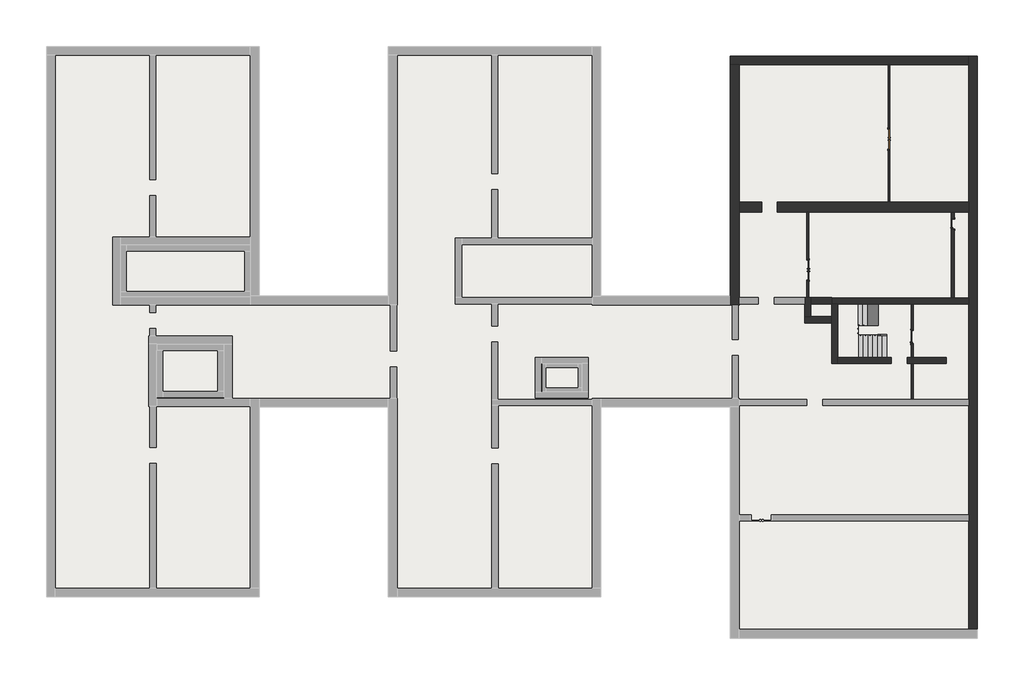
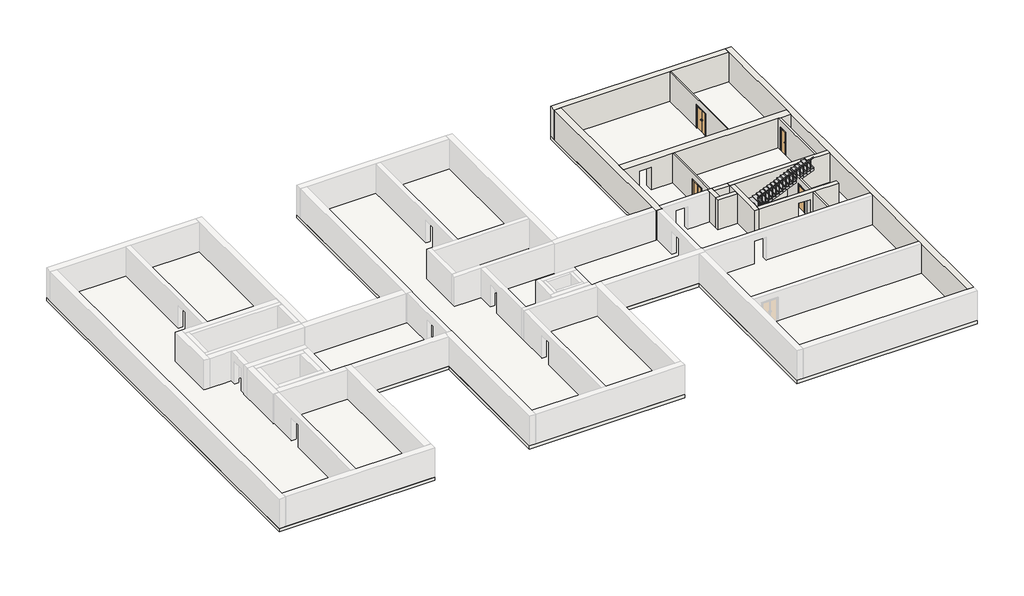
# One storey, part 2 of 2: 15 walls, 4 doors, 2 slabs, 2 stair flights, 1 railing.
"""IFC4 building model written with IfcOpenShell, lengths in millimetres."""

from ifc_helpers import new_model, si_unit, frame, origin, place, context, project, spatial, polyline, outline, extrude, faceted_brep, transform, mapped, element, save
from components import door_6cda5d05, door_2465b851, door_276684d3, door_2809dd26, railing_34ed4170

model = new_model("IFC4")

# Units and contexts
model_context = context("Model", 3, world=origin())
ifc_project = project(units=[si_unit("LENGTHUNIT", "METRE", prefix="MILLI")], contexts=[model_context])

# Site, building, storey
site = spatial("IfcSite", under=ifc_project)
building = spatial("IfcBuilding", under=site)
storey = spatial("IfcBuildingStorey", under=building, Name="Подвальный этаж", Elevation=-3000.0)

# Doors
placement = place(None, origin())
door_shape = door_6cda5d05(model_context)
element("IfcDoor", 1, ObjectType="Наружная дверь 2-Навесная - Один проем наружу с порогом - 31173-2003 : ДСН ДКН М2 2100-1300 ГОСТ 31173-2003", at=placement, inside=storey, context=model_context, shape_type="MappedRepresentation", body=[
    mapped(door_shape, transform((9840.1759979, 8384.6370105, -3000.0), x_axis=(0.0, 1.0, 0.0), y_axis=(-1.0, 0.0, 0.0), z_axis=(0.0, 0.0, 1.0))),
])
door_2_shape = door_2465b851(model_context)
element("IfcDoor", 2, ObjectType="Наружная дверь 2-Навесная - Один проем наружу с порогом - 31173-2003 : ДСН ДКН М2 2100-1300 ГОСТ 31173-2003", at=placement, inside=storey, context=model_context, shape_type="MappedRepresentation", body=[
    mapped(door_2_shape, transform((14967.6759979, 16684.6370105, -3000.0), x_axis=(0.0, 1.0, 0.0), y_axis=(-1.0, 0.0, 0.0), z_axis=(0.0, 0.0, 1.0))),
])
door_3_shape = door_276684d3(model_context)
element("IfcDoor", 3, ObjectType="Внутренняя дверь 1-Навесная - 6629-88 : ДГ 21-9  ГОСТ 6629-88", at=placement, inside=storey, context=model_context, shape_type="MappedRepresentation", body=[
    mapped(door_3_shape, transform((16435.1759979, 4154.6370105, -3000.0), x_axis=(0.0, 1.0, 0.0), y_axis=(-1.0, 0.0, 0.0), z_axis=(0.0, 0.0, 1.0))),
])
door_4_shape = door_2809dd26(model_context)
element("IfcDoor", 4, ObjectType="Внутренняя дверь 1-Навесная - 6629-88 : ДГ 21-7Л  ГОСТ 6629-88", at=placement, inside=storey, context=model_context, shape_type="MappedRepresentation", body=[
    mapped(door_4_shape, transform((19017.6759979, 11304.6370105, -3000.0), x_axis=(0.0, -1.0, 0.0), y_axis=(1.0, 0.0, 0.0), z_axis=(0.0, 0.0, 1.0))),
])

# Railing
railing_shape = railing_34ed4170(model_context)
element("IfcRailing", 5, ObjectType="ADSK_Стандартное_h 900 Поручень квадратный без направляющих", at=placement, inside=storey, context=model_context, shape_type="MappedRepresentation", body=[
    mapped(railing_shape, transform((0.0, 0.0, 0.0), x_axis=(1.0, 0.0, 0.0), y_axis=(0.0, 1.0, 0.0), z_axis=(0.0, 0.0, 1.0))),
])

# Slabs
element("IfcSlab", 6, ObjectType="ADSK_Перекрытие_Плита с полом_Бетон220 лаги40 доска40_300", at=placement, inside=storey, context=model_context, shape_type="SweptSolid", body=[
    extrude(outline(polyline([(-38347.3240021, -12320.3629895), (-38347.3240021, 22549.6370105), (-24897.3240021, 22549.6370105), (-24897.3240021, 6739.6370105), (-16707.3240021, 6739.6370105), (-16707.3240021, 22549.6370105), (-3257.3240021, 22549.6370105), (-3257.3240021, 6739.6370105), (4932.6759979, 6739.6370105), (4932.6759979, 21939.6370105), (20572.6759979, 21939.6370105), (20572.6759979, -14930.3629895), (4932.6759979, -14930.3629895), (4932.6759979, -290.3629895), (-3257.3240021, -290.3629895), (-3257.3240021, -12320.3629895), (-16707.3240021, -12320.3629895), (-16707.3240021, -290.3629895), (-24897.3240021, -290.3629895), (-24897.3240021, -12320.3629895), (-38347.3240021, -12320.3629895)])), frame((0.0, 0.0, -3300.0), z_axis=(0.0, 0.0, 1.0), x_axis=(1.0, 0.0, 0.0)), (0.0, 0.0, 1.0), 300.0),
])
element("IfcSlab", 7, ObjectType="ADSK_Монолитная_С отделкой_200х80", at=placement, inside=storey, context=model_context, shape_type="SolidModel", body=[
    faceted_brep([(13012.2759979, 2844.6370105, -2205.0), (13012.2759979, 4285.238226, -2205.0), (13027.2759979, 4285.238226, -2205.0), (13027.2759979, 4884.6370105, -2205.0), (13042.2759979, 4884.6370105, -2205.0), (13042.2759979, 6244.6370105, -2205.0), (13027.2759979, 6244.6370105, -2205.0), (12832.2759979, 6244.6370105, -2205.0), (11737.6759979, 6244.6370105, -2205.0), (11737.6759979, 2844.6370105, -2205.0), (12922.2759979, 2844.6370105, -2205.0), (13012.2759979, 2844.6370105, -2280.0), (13012.2759979, 2844.6370105, -2442.5), (13012.2759979, 4285.238226, -2442.5), (13012.2759979, 4285.238226, -2405.0), (13012.2759979, 4285.238226, -2280.0), (13027.2759979, 4285.238226, -2405.0), (13027.2759979, 4884.6370105, -2405.0), (13027.2759979, 4884.6370105, -2323.75), (13042.2759979, 4884.6370105, -2317.5), (13042.2759979, 6244.6370105, -2317.5), (13027.2759979, 6244.6370105, -2323.75), (12832.2759979, 6244.6370105, -2405.0), (11737.6759979, 6244.6370105, -2405.0), (11737.6759979, 2844.6370105, -2405.0), (12922.2759979, 2844.6370105, -2405.0), (12832.2759979, 4884.6370105, -2405.0), (12922.2759979, 4285.238226, -2405.0)], [[[0, 1, 2, 3, 4, 5, 6, 7, 8, 9, 10]], [[1, 0, 11, 12, 13, 14, 15]], [[2, 1, 15, 14, 16]], [[3, 2, 16, 17, 18]], [[4, 3, 18, 19]], [[5, 4, 19, 20]], [[6, 5, 20, 21]], [[6, 21, 22, 23, 8, 7]], [[9, 8, 23, 24]], [[12, 11, 0, 10, 9, 24, 25]], [[26, 17, 16, 14, 27, 25, 24, 23, 22]], [[17, 26, 18]], [[25, 27, 13, 12]], [[27, 14, 13]], [[26, 22, 21, 20, 19, 18]]]),
    extrude(outline(polyline([(13027.2759979, 2844.6370105), (11737.6759979, 2844.6370105), (11737.6759979, 6244.6370105), (13027.2759979, 6244.6370105), (13027.2759979, 4884.6370105), (13027.2759979, 4285.238226), (13027.2759979, 2844.6370105)])), frame((0.0, 0.0, -2205.0), z_axis=(0.0, 0.0, 1.0), x_axis=(1.0, 0.0, 0.0)), (0.0, 0.0, 1.0), 80.0),
])

# Stair flights
element("IfcStairFlight", 8, ObjectType="ADSK_Монолитный_С отделкой_150х30х15", at=placement, inside=storey, context=model_context, shape_type="SolidModel", body=[
    faceted_brep([(14512.2759979, 2844.6370105, -2905.0), (14812.2759979, 2844.6370105, -2905.0), (14812.2759979, 4285.238226, -2905.0), (14512.2759979, 4285.238226, -2905.0), (14512.2759979, 2844.6370105, -3000.0), (14812.2759979, 2844.6370105, -3000.0), (14812.2759979, 4285.238226, -3000.0), (14512.2759979, 4285.238226, -3000.0), (14212.2759979, 2844.6370105, -2780.0), (14512.2759979, 2844.6370105, -2780.0), (14512.2759979, 4285.238226, -2780.0), (14212.2759979, 4285.238226, -2780.0), (14212.2759979, 2844.6370105, -2942.5), (14350.2759979, 2844.6370105, -3000.0), (14350.2759979, 4285.238226, -3000.0), (14212.2759979, 4285.238226, -2942.5), (13912.2759979, 2844.6370105, -2655.0), (14212.2759979, 2844.6370105, -2655.0), (14212.2759979, 4285.238226, -2655.0), (13912.2759979, 4285.238226, -2655.0), (13912.2759979, 2844.6370105, -2817.5), (13912.2759979, 4285.238226, -2817.5), (13612.2759979, 2844.6370105, -2530.0), (13912.2759979, 2844.6370105, -2530.0), (13912.2759979, 4285.238226, -2530.0), (13612.2759979, 4285.238226, -2530.0), (13612.2759979, 2844.6370105, -2692.5), (13612.2759979, 4285.238226, -2692.5), (13312.2759979, 2844.6370105, -2405.0), (13612.2759979, 2844.6370105, -2405.0), (13612.2759979, 4285.238226, -2405.0), (13312.2759979, 4285.238226, -2405.0), (13312.2759979, 2844.6370105, -2567.5), (13312.2759979, 4285.238226, -2567.5), (13312.2759979, 2844.6370105, -2280.0), (13312.2759979, 4285.238226, -2280.0), (13027.2759979, 4285.238226, -2280.0), (13012.2759979, 4285.238226, -2280.0), (13012.2759979, 2844.6370105, -2280.0), (13027.2759979, 2844.6370105, -2280.0), (13012.2759979, 2844.6370105, -2442.5), (13027.2759979, 2844.6370105, -2448.75), (13012.2759979, 4285.238226, -2442.5), (13012.2759979, 4285.238226, -2405.0)], [[[0, 1, 2, 3]], [[1, 0, 4, 5]], [[2, 1, 5, 6]], [[3, 2, 6, 7]], [[8, 9, 10, 11]], [[4, 0, 9, 8, 12, 13]], [[0, 3, 10, 9]], [[3, 7, 14, 15, 11, 10]], [[16, 17, 18, 19]], [[17, 16, 20, 12, 8]], [[8, 11, 18, 17]], [[19, 18, 11, 15, 21]], [[22, 23, 24, 25]], [[23, 22, 26, 20, 16]], [[16, 19, 24, 23]], [[25, 24, 19, 21, 27]], [[28, 29, 30, 31]], [[29, 28, 32, 26, 22]], [[22, 25, 30, 29]], [[31, 30, 25, 27, 33]], [[34, 35, 36, 37, 38, 39]], [[28, 34, 39, 38, 40, 41, 32]], [[28, 31, 35, 34]], [[35, 31, 33, 42, 43, 37, 36]], [[38, 37, 43, 42, 40]], [[5, 4, 13, 14, 7, 6]], [[14, 13, 12, 20, 26, 32, 41, 40, 42, 33, 27, 21, 15]]]),
    extrude(outline(polyline([(14812.2759979, 4285.238226), (14827.2759979, 4285.238226), (14827.2759979, 2844.6370105), (14812.2759979, 2844.6370105), (14812.2759979, 4285.238226)])), frame((0.0, 0.0, -3000.0), z_axis=(0.0, 0.0, 1.0), x_axis=(1.0, 0.0, 0.0)), (0.0, 0.0, 1.0), 95.0),
    extrude(outline(polyline([(14527.2759979, 2844.6370105), (14527.2759979, 4285.238226), (14827.2759979, 4285.238226), (14827.2759979, 2844.6370105), (14527.2759979, 2844.6370105)])), frame((0.0, 0.0, -2905.0), z_axis=(0.0, 0.0, 1.0), x_axis=(1.0, 0.0, 0.0)), (0.0, 0.0, 1.0), 30.0),
    extrude(outline(polyline([(14512.2759979, 4285.238226), (14527.2759979, 4285.238226), (14527.2759979, 2844.6370105), (14512.2759979, 2844.6370105), (14512.2759979, 4285.238226)])), frame((0.0, 0.0, -2905.0), z_axis=(0.0, 0.0, 1.0), x_axis=(1.0, 0.0, 0.0)), (0.0, 0.0, 1.0), 125.0),
    extrude(outline(polyline([(14227.2759979, 2844.6370105), (14227.2759979, 4285.238226), (14527.2759979, 4285.238226), (14527.2759979, 2844.6370105), (14227.2759979, 2844.6370105)])), frame((0.0, 0.0, -2780.0), z_axis=(0.0, 0.0, 1.0), x_axis=(1.0, 0.0, 0.0)), (0.0, 0.0, 1.0), 30.0),
    extrude(outline(polyline([(14212.2759979, 4285.238226), (14227.2759979, 4285.238226), (14227.2759979, 2844.6370105), (14212.2759979, 2844.6370105), (14212.2759979, 4285.238226)])), frame((0.0, 0.0, -2780.0), z_axis=(0.0, 0.0, 1.0), x_axis=(1.0, 0.0, 0.0)), (0.0, 0.0, 1.0), 125.0),
    extrude(outline(polyline([(13927.2759979, 2844.6370105), (13927.2759979, 4285.238226), (14227.2759979, 4285.238226), (14227.2759979, 2844.6370105), (13927.2759979, 2844.6370105)])), frame((0.0, 0.0, -2655.0), z_axis=(0.0, 0.0, 1.0), x_axis=(1.0, 0.0, 0.0)), (0.0, 0.0, 1.0), 30.0),
    extrude(outline(polyline([(13912.2759979, 4285.238226), (13927.2759979, 4285.238226), (13927.2759979, 2844.6370105), (13912.2759979, 2844.6370105), (13912.2759979, 4285.238226)])), frame((0.0, 0.0, -2655.0), z_axis=(0.0, 0.0, 1.0), x_axis=(1.0, 0.0, 0.0)), (0.0, 0.0, 1.0), 125.0),
    extrude(outline(polyline([(13627.2759979, 2844.6370105), (13627.2759979, 4285.238226), (13927.2759979, 4285.238226), (13927.2759979, 2844.6370105), (13627.2759979, 2844.6370105)])), frame((0.0, 0.0, -2530.0), z_axis=(0.0, 0.0, 1.0), x_axis=(1.0, 0.0, 0.0)), (0.0, 0.0, 1.0), 30.0),
    extrude(outline(polyline([(13612.2759979, 4285.238226), (13627.2759979, 4285.238226), (13627.2759979, 2844.6370105), (13612.2759979, 2844.6370105), (13612.2759979, 4285.238226)])), frame((0.0, 0.0, -2530.0), z_axis=(0.0, 0.0, 1.0), x_axis=(1.0, 0.0, 0.0)), (0.0, 0.0, 1.0), 125.0),
    extrude(outline(polyline([(13327.2759979, 2844.6370105), (13327.2759979, 4285.238226), (13627.2759979, 4285.238226), (13627.2759979, 2844.6370105), (13327.2759979, 2844.6370105)])), frame((0.0, 0.0, -2405.0), z_axis=(0.0, 0.0, 1.0), x_axis=(1.0, 0.0, 0.0)), (0.0, 0.0, 1.0), 30.0),
    extrude(outline(polyline([(13312.2759979, 4285.238226), (13327.2759979, 4285.238226), (13327.2759979, 2844.6370105), (13312.2759979, 2844.6370105), (13312.2759979, 4285.238226)])), frame((0.0, 0.0, -2405.0), z_axis=(0.0, 0.0, 1.0), x_axis=(1.0, 0.0, 0.0)), (0.0, 0.0, 1.0), 125.0),
    extrude(outline(polyline([(13027.2759979, 2844.6370105), (13027.2759979, 4285.238226), (13327.2759979, 4285.238226), (13327.2759979, 2844.6370105), (13027.2759979, 2844.6370105)])), frame((0.0, 0.0, -2280.0), z_axis=(0.0, 0.0, 1.0), x_axis=(1.0, 0.0, 0.0)), (0.0, 0.0, 1.0), 30.0),
    extrude(outline(polyline([(13012.2759979, 4285.238226), (13027.2759979, 4285.238226), (13027.2759979, 2844.6370105), (13012.2759979, 2844.6370105), (13012.2759979, 4285.238226)])), frame((0.0, 0.0, -2280.0), z_axis=(0.0, 0.0, 1.0), x_axis=(1.0, 0.0, 0.0)), (0.0, 0.0, 1.0), 75.0),
])
element("IfcStairFlight", 9, ObjectType="ADSK_Монолитный_С отделкой_150х30х15", at=placement, inside=storey, context=model_context, shape_type="SolidModel", body=[
    faceted_brep([(13342.2759979, 6244.6370105, -2030.0), (13042.2759979, 6244.6370105, -2030.0), (13042.2759979, 4884.6370105, -2030.0), (13342.2759979, 4884.6370105, -2030.0), (13342.2759979, 6244.6370105, -2192.5), (13042.2759979, 6244.6370105, -2317.5), (13042.2759979, 6244.6370105, -2205.0), (13042.2759979, 4884.6370105, -2317.5), (13042.2759979, 4884.6370105, -2205.0), (13342.2759979, 4884.6370105, -2192.5), (13642.2759979, 6244.6370105, -1905.0), (13342.2759979, 6244.6370105, -1905.0), (13342.2759979, 4884.6370105, -1905.0), (13642.2759979, 4884.6370105, -1905.0), (13642.2759979, 6244.6370105, -2067.5), (13642.2759979, 4884.6370105, -2067.5), (13942.2759979, 6244.6370105, -1780.0), (13642.2759979, 6244.6370105, -1780.0), (13642.2759979, 4884.6370105, -1780.0), (13942.2759979, 4884.6370105, -1780.0), (13942.2759979, 6244.6370105, -1942.5), (13942.2759979, 4884.6370105, -1942.5), (14242.2759979, 6244.6370105, -1655.0), (13942.2759979, 6244.6370105, -1655.0), (13942.2759979, 4884.6370105, -1655.0), (14242.2759979, 4884.6370105, -1655.0), (14242.2759979, 6244.6370105, -1817.5), (14242.2759979, 4884.6370105, -1817.5), (14542.2759979, 6244.6370105, -1530.0), (14242.2759979, 6244.6370105, -1530.0), (14242.2759979, 4884.6370105, -1530.0), (14542.2759979, 4884.6370105, -1530.0), (14542.2759979, 6244.6370105, -1692.5), (14542.2759979, 4884.6370105, -1692.5), (14842.2759979, 6244.6370105, -1405.0), (14542.2759979, 6244.6370105, -1405.0), (14542.2759979, 4884.6370105, -1405.0), (14842.2759979, 4884.6370105, -1405.0), (14842.2759979, 6244.6370105, -1567.5), (14842.2759979, 4884.6370105, -1567.5), (15142.2759979, 6244.6370105, -1280.0), (14842.2759979, 6244.6370105, -1280.0), (14842.2759979, 4884.6370105, -1280.0), (15142.2759979, 4884.6370105, -1280.0), (15142.2759979, 6244.6370105, -1442.5), (15142.2759979, 4884.6370105, -1442.5), (15442.2759979, 6244.6370105, -1155.0), (15142.2759979, 6244.6370105, -1155.0), (15142.2759979, 4884.6370105, -1155.0), (15442.2759979, 4884.6370105, -1155.0), (15442.2759979, 6244.6370105, -1317.5), (15442.2759979, 4884.6370105, -1317.5), (15742.2759979, 6244.6370105, -1030.0), (15442.2759979, 6244.6370105, -1030.0), (15442.2759979, 4884.6370105, -1030.0), (15742.2759979, 4884.6370105, -1030.0), (15742.2759979, 6244.6370105, -1192.5), (15742.2759979, 4884.6370105, -1192.5), (16042.2759979, 6244.6370105, -905.0), (15742.2759979, 6244.6370105, -905.0), (15742.2759979, 4884.6370105, -905.0), (16042.2759979, 4884.6370105, -905.0), (16042.2759979, 6244.6370105, -1067.5), (16042.2759979, 4884.6370105, -1067.5), (16342.2759979, 6244.6370105, -780.0), (16042.2759979, 6244.6370105, -780.0), (16042.2759979, 4884.6370105, -780.0), (16342.2759979, 4884.6370105, -780.0), (16342.2759979, 6244.6370105, -942.5), (16342.2759979, 4884.6370105, -942.5), (16642.2759979, 6244.6370105, -817.5), (16942.2759979, 6244.6370105, -692.5), (17242.2759979, 6244.6370105, -567.5), (17542.2759979, 6244.6370105, -442.5), (17842.2759979, 6244.6370105, -317.5), (17842.2759979, 4884.6370105, -317.5), (17542.2759979, 4884.6370105, -442.5), (17242.2759979, 4884.6370105, -567.5), (16942.2759979, 4884.6370105, -692.5), (16642.2759979, 4884.6370105, -817.5), (16642.2759979, 6244.6370105, -655.0), (16342.2759979, 6244.6370105, -655.0), (16342.2759979, 4884.6370105, -655.0), (16642.2759979, 4884.6370105, -655.0), (16942.2759979, 6244.6370105, -530.0), (16642.2759979, 6244.6370105, -530.0), (16642.2759979, 4884.6370105, -530.0), (16942.2759979, 4884.6370105, -530.0), (17242.2759979, 6244.6370105, -405.0), (16942.2759979, 6244.6370105, -405.0), (16942.2759979, 4884.6370105, -405.0), (17242.2759979, 4884.6370105, -405.0), (17542.2759979, 6244.6370105, -280.0), (17242.2759979, 6244.6370105, -280.0), (17242.2759979, 4884.6370105, -280.0), (17542.2759979, 4884.6370105, -280.0), (17842.2759979, 6244.6370105, -155.0), (17542.2759979, 6244.6370105, -155.0), (17542.2759979, 4884.6370105, -155.0), (17842.2759979, 4884.6370105, -155.0)], [[[0, 1, 2, 3]], [[1, 0, 4, 5, 6]], [[2, 1, 6, 5, 7, 8]], [[3, 2, 8, 7, 9]], [[10, 11, 12, 13]], [[11, 10, 14, 4, 0]], [[12, 11, 0, 3]], [[13, 12, 3, 9, 15]], [[16, 17, 18, 19]], [[17, 16, 20, 14, 10]], [[18, 17, 10, 13]], [[19, 18, 13, 15, 21]], [[22, 23, 24, 25]], [[23, 22, 26, 20, 16]], [[24, 23, 16, 19]], [[25, 24, 19, 21, 27]], [[28, 29, 30, 31]], [[29, 28, 32, 26, 22]], [[30, 29, 22, 25]], [[31, 30, 25, 27, 33]], [[34, 35, 36, 37]], [[35, 34, 38, 32, 28]], [[36, 35, 28, 31]], [[37, 36, 31, 33, 39]], [[40, 41, 42, 43]], [[41, 40, 44, 38, 34]], [[42, 41, 34, 37]], [[43, 42, 37, 39, 45]], [[46, 47, 48, 49]], [[47, 46, 50, 44, 40]], [[48, 47, 40, 43]], [[49, 48, 43, 45, 51]], [[52, 53, 54, 55]], [[53, 52, 56, 50, 46]], [[54, 53, 46, 49]], [[55, 54, 49, 51, 57]], [[58, 59, 60, 61]], [[59, 58, 62, 56, 52]], [[60, 59, 52, 55]], [[61, 60, 55, 57, 63]], [[64, 65, 66, 67]], [[65, 64, 68, 62, 58]], [[66, 65, 58, 61]], [[67, 66, 61, 63, 69]], [[5, 4, 14, 20, 26, 32, 38, 44, 50, 56, 62, 68, 70, 71, 72, 73, 74, 75, 76, 77, 78, 79, 69, 63, 57, 51, 45, 39, 33, 27, 21, 15, 9, 7]], [[80, 81, 82, 83]], [[81, 80, 70, 68, 64]], [[82, 81, 64, 67]], [[83, 82, 67, 69, 79]], [[84, 85, 86, 87]], [[85, 84, 71, 70, 80]], [[86, 85, 80, 83]], [[87, 86, 83, 79, 78]], [[88, 89, 90, 91]], [[89, 88, 72, 71, 84]], [[90, 89, 84, 87]], [[91, 90, 87, 78, 77]], [[92, 93, 94, 95]], [[93, 92, 73, 72, 88]], [[94, 93, 88, 91]], [[95, 94, 91, 77, 76]], [[96, 97, 98, 99]], [[97, 96, 74, 73, 92]], [[98, 97, 92, 95]], [[99, 98, 95, 76, 75]], [[96, 99, 75, 74]]]),
    extrude(outline(polyline([(13042.2759979, 4884.6370105), (13027.2759979, 4884.6370105), (13027.2759979, 6244.6370105), (13042.2759979, 6244.6370105), (13042.2759979, 4884.6370105)])), frame((0.0, 0.0, -2205.0), z_axis=(0.0, 0.0, 1.0), x_axis=(1.0, 0.0, 0.0)), (0.0, 0.0, 1.0), 175.0),
    extrude(outline(polyline([(13327.2759979, 6244.6370105), (13327.2759979, 4884.6370105), (13027.2759979, 4884.6370105), (13027.2759979, 6244.6370105), (13327.2759979, 6244.6370105)])), frame((0.0, 0.0, -2030.0), z_axis=(0.0, 0.0, 1.0), x_axis=(1.0, 0.0, 0.0)), (0.0, 0.0, 1.0), 30.0),
    extrude(outline(polyline([(13342.2759979, 4884.6370105), (13327.2759979, 4884.6370105), (13327.2759979, 6244.6370105), (13342.2759979, 6244.6370105), (13342.2759979, 4884.6370105)])), frame((0.0, 0.0, -2030.0), z_axis=(0.0, 0.0, 1.0), x_axis=(1.0, 0.0, 0.0)), (0.0, 0.0, 1.0), 125.0),
    extrude(outline(polyline([(13627.2759979, 6244.6370105), (13627.2759979, 4884.6370105), (13327.2759979, 4884.6370105), (13327.2759979, 6244.6370105), (13627.2759979, 6244.6370105)])), frame((0.0, 0.0, -1905.0), z_axis=(0.0, 0.0, 1.0), x_axis=(1.0, 0.0, 0.0)), (0.0, 0.0, 1.0), 30.0),
    extrude(outline(polyline([(13642.2759979, 4884.6370105), (13627.2759979, 4884.6370105), (13627.2759979, 6244.6370105), (13642.2759979, 6244.6370105), (13642.2759979, 4884.6370105)])), frame((0.0, 0.0, -1905.0), z_axis=(0.0, 0.0, 1.0), x_axis=(1.0, 0.0, 0.0)), (0.0, 0.0, 1.0), 125.0),
    extrude(outline(polyline([(13927.2759979, 6244.6370105), (13927.2759979, 4884.6370105), (13627.2759979, 4884.6370105), (13627.2759979, 6244.6370105), (13927.2759979, 6244.6370105)])), frame((0.0, 0.0, -1780.0), z_axis=(0.0, 0.0, 1.0), x_axis=(1.0, 0.0, 0.0)), (0.0, 0.0, 1.0), 30.0),
    extrude(outline(polyline([(13942.2759979, 4884.6370105), (13927.2759979, 4884.6370105), (13927.2759979, 6244.6370105), (13942.2759979, 6244.6370105), (13942.2759979, 4884.6370105)])), frame((0.0, 0.0, -1780.0), z_axis=(0.0, 0.0, 1.0), x_axis=(1.0, 0.0, 0.0)), (0.0, 0.0, 1.0), 125.0),
    extrude(outline(polyline([(14227.2759979, 6244.6370105), (14227.2759979, 4884.6370105), (13927.2759979, 4884.6370105), (13927.2759979, 6244.6370105), (14227.2759979, 6244.6370105)])), frame((0.0, 0.0, -1655.0), z_axis=(0.0, 0.0, 1.0), x_axis=(1.0, 0.0, 0.0)), (0.0, 0.0, 1.0), 30.0),
    extrude(outline(polyline([(14242.2759979, 4884.6370105), (14227.2759979, 4884.6370105), (14227.2759979, 6244.6370105), (14242.2759979, 6244.6370105), (14242.2759979, 4884.6370105)])), frame((0.0, 0.0, -1655.0), z_axis=(0.0, 0.0, 1.0), x_axis=(1.0, 0.0, 0.0)), (0.0, 0.0, 1.0), 125.0),
    extrude(outline(polyline([(14527.2759979, 6244.6370105), (14527.2759979, 4884.6370105), (14227.2759979, 4884.6370105), (14227.2759979, 6244.6370105), (14527.2759979, 6244.6370105)])), frame((0.0, 0.0, -1530.0), z_axis=(0.0, 0.0, 1.0), x_axis=(1.0, 0.0, 0.0)), (0.0, 0.0, 1.0), 30.0),
    extrude(outline(polyline([(14542.2759979, 4884.6370105), (14527.2759979, 4884.6370105), (14527.2759979, 6244.6370105), (14542.2759979, 6244.6370105), (14542.2759979, 4884.6370105)])), frame((0.0, 0.0, -1530.0), z_axis=(0.0, 0.0, 1.0), x_axis=(1.0, 0.0, 0.0)), (0.0, 0.0, 1.0), 125.0),
    extrude(outline(polyline([(14827.2759979, 6244.6370105), (14827.2759979, 4884.6370105), (14527.2759979, 4884.6370105), (14527.2759979, 6244.6370105), (14827.2759979, 6244.6370105)])), frame((0.0, 0.0, -1405.0), z_axis=(0.0, 0.0, 1.0), x_axis=(1.0, 0.0, 0.0)), (0.0, 0.0, 1.0), 30.0),
    extrude(outline(polyline([(14842.2759979, 4884.6370105), (14827.2759979, 4884.6370105), (14827.2759979, 6244.6370105), (14842.2759979, 6244.6370105), (14842.2759979, 4884.6370105)])), frame((0.0, 0.0, -1405.0), z_axis=(0.0, 0.0, 1.0), x_axis=(1.0, 0.0, 0.0)), (0.0, 0.0, 1.0), 125.0),
    extrude(outline(polyline([(15127.2759979, 6244.6370105), (15127.2759979, 4884.6370105), (14827.2759979, 4884.6370105), (14827.2759979, 6244.6370105), (15127.2759979, 6244.6370105)])), frame((0.0, 0.0, -1280.0), z_axis=(0.0, 0.0, 1.0), x_axis=(1.0, 0.0, 0.0)), (0.0, 0.0, 1.0), 30.0),
    extrude(outline(polyline([(15142.2759979, 4884.6370105), (15127.2759979, 4884.6370105), (15127.2759979, 6244.6370105), (15142.2759979, 6244.6370105), (15142.2759979, 4884.6370105)])), frame((0.0, 0.0, -1280.0), z_axis=(0.0, 0.0, 1.0), x_axis=(1.0, 0.0, 0.0)), (0.0, 0.0, 1.0), 125.0),
    extrude(outline(polyline([(15427.2759979, 6244.6370105), (15427.2759979, 4884.6370105), (15127.2759979, 4884.6370105), (15127.2759979, 6244.6370105), (15427.2759979, 6244.6370105)])), frame((0.0, 0.0, -1155.0), z_axis=(0.0, 0.0, 1.0), x_axis=(1.0, 0.0, 0.0)), (0.0, 0.0, 1.0), 30.0),
    extrude(outline(polyline([(15442.2759979, 4884.6370105), (15427.2759979, 4884.6370105), (15427.2759979, 6244.6370105), (15442.2759979, 6244.6370105), (15442.2759979, 4884.6370105)])), frame((0.0, 0.0, -1155.0), z_axis=(0.0, 0.0, 1.0), x_axis=(1.0, 0.0, 0.0)), (0.0, 0.0, 1.0), 125.0),
    extrude(outline(polyline([(15727.2759979, 6244.6370105), (15727.2759979, 4884.6370105), (15427.2759979, 4884.6370105), (15427.2759979, 6244.6370105), (15727.2759979, 6244.6370105)])), frame((0.0, 0.0, -1030.0), z_axis=(0.0, 0.0, 1.0), x_axis=(1.0, 0.0, 0.0)), (0.0, 0.0, 1.0), 30.0),
    extrude(outline(polyline([(15742.2759979, 4884.6370105), (15727.2759979, 4884.6370105), (15727.2759979, 6244.6370105), (15742.2759979, 6244.6370105), (15742.2759979, 4884.6370105)])), frame((0.0, 0.0, -1030.0), z_axis=(0.0, 0.0, 1.0), x_axis=(1.0, 0.0, 0.0)), (0.0, 0.0, 1.0), 125.0),
    extrude(outline(polyline([(16027.2759979, 6244.6370105), (16027.2759979, 4884.6370105), (15727.2759979, 4884.6370105), (15727.2759979, 6244.6370105), (16027.2759979, 6244.6370105)])), frame((0.0, 0.0, -905.0), z_axis=(0.0, 0.0, 1.0), x_axis=(1.0, 0.0, 0.0)), (0.0, 0.0, 1.0), 30.0),
    extrude(outline(polyline([(16042.2759979, 4884.6370105), (16027.2759979, 4884.6370105), (16027.2759979, 6244.6370105), (16042.2759979, 6244.6370105), (16042.2759979, 4884.6370105)])), frame((0.0, 0.0, -905.0), z_axis=(0.0, 0.0, 1.0), x_axis=(1.0, 0.0, 0.0)), (0.0, 0.0, 1.0), 125.0),
    extrude(outline(polyline([(16327.2759979, 6244.6370105), (16327.2759979, 4884.6370105), (16027.2759979, 4884.6370105), (16027.2759979, 6244.6370105), (16327.2759979, 6244.6370105)])), frame((0.0, 0.0, -780.0), z_axis=(0.0, 0.0, 1.0), x_axis=(1.0, 0.0, 0.0)), (0.0, 0.0, 1.0), 30.0),
    extrude(outline(polyline([(16342.2759979, 4884.6370105), (16327.2759979, 4884.6370105), (16327.2759979, 6244.6370105), (16342.2759979, 6244.6370105), (16342.2759979, 4884.6370105)])), frame((0.0, 0.0, -780.0), z_axis=(0.0, 0.0, 1.0), x_axis=(1.0, 0.0, 0.0)), (0.0, 0.0, 1.0), 125.0),
    extrude(outline(polyline([(16627.2759979, 6244.6370105), (16627.2759979, 4884.6370105), (16327.2759979, 4884.6370105), (16327.2759979, 6244.6370105), (16627.2759979, 6244.6370105)])), frame((0.0, 0.0, -655.0), z_axis=(0.0, 0.0, 1.0), x_axis=(1.0, 0.0, 0.0)), (0.0, 0.0, 1.0), 30.0),
    extrude(outline(polyline([(16642.2759979, 4884.6370105), (16627.2759979, 4884.6370105), (16627.2759979, 6244.6370105), (16642.2759979, 6244.6370105), (16642.2759979, 4884.6370105)])), frame((0.0, 0.0, -655.0), z_axis=(0.0, 0.0, 1.0), x_axis=(1.0, 0.0, 0.0)), (0.0, 0.0, 1.0), 125.0),
    extrude(outline(polyline([(16927.2759979, 6244.6370105), (16927.2759979, 4884.6370105), (16627.2759979, 4884.6370105), (16627.2759979, 6244.6370105), (16927.2759979, 6244.6370105)])), frame((0.0, 0.0, -530.0), z_axis=(0.0, 0.0, 1.0), x_axis=(1.0, 0.0, 0.0)), (0.0, 0.0, 1.0), 30.0),
    extrude(outline(polyline([(16942.2759979, 4884.6370105), (16927.2759979, 4884.6370105), (16927.2759979, 6244.6370105), (16942.2759979, 6244.6370105), (16942.2759979, 4884.6370105)])), frame((0.0, 0.0, -530.0), z_axis=(0.0, 0.0, 1.0), x_axis=(1.0, 0.0, 0.0)), (0.0, 0.0, 1.0), 125.0),
    extrude(outline(polyline([(17227.2759979, 6244.6370105), (17227.2759979, 4884.6370105), (16927.2759979, 4884.6370105), (16927.2759979, 6244.6370105), (17227.2759979, 6244.6370105)])), frame((0.0, 0.0, -405.0), z_axis=(0.0, 0.0, 1.0), x_axis=(1.0, 0.0, 0.0)), (0.0, 0.0, 1.0), 30.0),
    extrude(outline(polyline([(17242.2759979, 4884.6370105), (17227.2759979, 4884.6370105), (17227.2759979, 6244.6370105), (17242.2759979, 6244.6370105), (17242.2759979, 4884.6370105)])), frame((0.0, 0.0, -405.0), z_axis=(0.0, 0.0, 1.0), x_axis=(1.0, 0.0, 0.0)), (0.0, 0.0, 1.0), 125.0),
    extrude(outline(polyline([(17527.2759979, 6244.6370105), (17527.2759979, 4884.6370105), (17227.2759979, 4884.6370105), (17227.2759979, 6244.6370105), (17527.2759979, 6244.6370105)])), frame((0.0, 0.0, -280.0), z_axis=(0.0, 0.0, 1.0), x_axis=(1.0, 0.0, 0.0)), (0.0, 0.0, 1.0), 30.0),
    extrude(outline(polyline([(17542.2759979, 4884.6370105), (17527.2759979, 4884.6370105), (17527.2759979, 6244.6370105), (17542.2759979, 6244.6370105), (17542.2759979, 4884.6370105)])), frame((0.0, 0.0, -280.0), z_axis=(0.0, 0.0, 1.0), x_axis=(1.0, 0.0, 0.0)), (0.0, 0.0, 1.0), 125.0),
    extrude(outline(polyline([(17842.2759979, 4884.6370105), (17827.2759979, 4884.6370105), (17827.2759979, 6244.6370105), (17842.2759979, 6244.6370105), (17842.2759979, 4884.6370105)])), frame((0.0, 0.0, -155.0), z_axis=(0.0, 0.0, 1.0), x_axis=(1.0, 0.0, 0.0)), (0.0, 0.0, 1.0), 125.0),
    extrude(outline(polyline([(17827.2759979, 6244.6370105), (17827.2759979, 4884.6370105), (17527.2759979, 4884.6370105), (17527.2759979, 6244.6370105), (17827.2759979, 6244.6370105)])), frame((0.0, 0.0, -155.0), z_axis=(0.0, 0.0, 1.0), x_axis=(1.0, 0.0, 0.0)), (0.0, 0.0, 1.0), 30.0),
])

# Walls
element("IfcWall", 10, ObjectType="ADSK_Внутренняя_Бетон_555", at=placement, inside=storey, context=model_context, shape_type="Brep", body=[
    faceted_brep([(20572.6759979, -14375.3629895, -3000.0), (20572.6759979, 21939.6370105, -3000.0), (20572.6759979, 21939.6370105, -300.0), (20572.6759979, -14375.3629895, -300.0), (20017.6759979, -14375.3629895, -3000.0), (20017.6759979, -14375.3629895, -300.0), (20017.6759979, -7495.3629895, -300.0), (20017.6759979, -7115.3629895, -300.0), (20017.6759979, -175.3629895, -300.0), (20017.6759979, 204.6370105, -300.0), (20017.6759979, 6244.6370105, -300.0), (20017.6759979, 6624.6370105, -300.0), (20017.6759979, 12064.6370105, -300.0), (20017.6759979, 12704.6370105, -300.0), (20017.6759979, 21384.6370105, -300.0), (20017.6759979, 21939.6370105, -300.0), (20017.6759979, 21939.6370105, -3000.0), (20017.6759979, 21384.6370105, -3000.0), (20017.6759979, 12704.6370105, -3000.0), (20017.6759979, 12064.6370105, -3000.0), (20017.6759979, 6624.6370105, -3000.0), (20017.6759979, 6244.6370105, -3000.0), (20017.6759979, 204.6370105, -3000.0), (20017.6759979, -175.3629895, -3000.0), (20017.6759979, -7115.3629895, -3000.0), (20017.6759979, -7495.3629895, -3000.0)], [[[0, 1, 2, 3]], [[4, 5, 6, 7, 8, 9, 10, 11, 12, 13, 14, 15, 16, 17, 18, 19, 20, 21, 22, 23, 24, 25]], [[1, 0, 4, 25, 24, 23, 22, 21, 20, 19, 18, 17, 16]], [[0, 3, 5, 4]], [[2, 1, 16, 15]], [[3, 2, 15, 14, 13, 12, 11, 10, 9, 8, 7, 6, 5]]]),
])
element("IfcWall", 11, ObjectType="ADSK_Внутренняя_Бетон_555", at=placement, inside=storey, context=model_context, shape_type="Brep", body=[
    faceted_brep([(20017.6759979, 21939.6370105, -3000.0), (4932.6759979, 21939.6370105, -3000.0), (4932.6759979, 21939.6370105, -300.0), (20017.6759979, 21939.6370105, -300.0), (20017.6759979, 21384.6370105, -3000.0), (20017.6759979, 21384.6370105, -300.0), (15017.6759979, 21384.6370105, -300.0), (14917.6759979, 21384.6370105, -300.0), (5487.6759979, 21384.6370105, -300.0), (4932.6759979, 21384.6370105, -300.0), (4932.6759979, 21384.6370105, -3000.0), (5487.6759979, 21384.6370105, -3000.0), (14917.6759979, 21384.6370105, -3000.0), (15017.6759979, 21384.6370105, -3000.0)], [[[0, 1, 2, 3]], [[4, 5, 6, 7, 8, 9, 10, 11, 12, 13]], [[1, 0, 4, 13, 12, 11, 10]], [[0, 3, 5, 4]], [[2, 1, 10, 9]], [[3, 2, 9, 8, 7, 6, 5]]]),
])
element("IfcWall", 12, ObjectType="ADSK_Внутренняя_Бетон_555", at=placement, inside=storey, context=model_context, shape_type="Brep", body=[
    faceted_brep([(4932.6759979, 21384.6370105, -3000.0), (4932.6759979, 6739.6370105, -3000.0), (4932.6759979, 6184.6370105, -3000.0), (4932.6759979, 6184.6370105, -300.0), (4932.6759979, 6739.6370105, -300.0), (4932.6759979, 21384.6370105, -300.0), (5487.6759979, 21384.6370105, -3000.0), (5487.6759979, 21384.6370105, -300.0), (5487.6759979, 12704.6370105, -300.0), (5487.6759979, 12064.6370105, -300.0), (5487.6759979, 6644.6370105, -300.0), (5487.6759979, 6244.6370105, -300.0), (5487.6759979, 6184.6370105, -300.0), (5487.6759979, 6184.6370105, -3000.0), (5487.6759979, 6244.6370105, -3000.0), (5487.6759979, 6644.6370105, -3000.0), (5487.6759979, 12064.6370105, -3000.0), (5487.6759979, 12704.6370105, -3000.0), (5427.6759979, 6184.6370105, -3000.0), (5047.6759979, 6184.6370105, -3000.0), (5427.6759979, 6184.6370105, -300.0), (5047.6759979, 6184.6370105, -300.0)], [[[0, 1, 2, 3, 4, 5]], [[6, 7, 8, 9, 10, 11, 12, 13, 14, 15, 16, 17]], [[2, 1, 0, 6, 17, 16, 15, 14, 13, 18, 19]], [[0, 5, 7, 6]], [[3, 2, 19, 18, 13, 12, 20, 21]], [[5, 4, 3, 21, 20, 12, 11, 10, 9, 8, 7]]]),
])
element("IfcWall", 13, ObjectType="ADSK_Внутренняя_Кирпич_380", at=placement, inside=storey, context=model_context, shape_type="Brep", body=[
    faceted_brep([(20017.6759979, 6624.6370105, -3000.0), (19117.6759979, 6624.6370105, -3000.0), (18917.6759979, 6624.6370105, -3000.0), (11357.6759979, 6624.6370105, -3000.0), (11357.6759979, 6624.6370105, -300.0), (18917.6759979, 6624.6370105, -300.0), (19117.6759979, 6624.6370105, -300.0), (20017.6759979, 6624.6370105, -300.0), (20017.6759979, 6244.6370105, -3000.0), (20017.6759979, 6244.6370105, -300.0), (17875.1759979, 6244.6370105, -300.0), (11737.6759979, 6244.6370105, -300.0), (11357.6759979, 6244.6370105, -300.0), (11357.6759979, 6244.6370105, -3000.0), (11737.6759979, 6244.6370105, -3000.0), (16372.6759979, 6244.6370105, -3000.0), (16497.6759979, 6244.6370105, -3000.0)], [[[0, 1, 2, 3, 4, 5, 6, 7]], [[8, 9, 10, 11, 12, 13, 14, 15, 16]], [[3, 2, 1, 0, 8, 16, 15, 14, 13]], [[0, 7, 9, 8]], [[4, 3, 13, 12]], [[7, 6, 5, 4, 12, 11, 10, 9]]]),
])
element("IfcWall", 14, ObjectType="ADSK_Внутренняя_Бетон_380", at=placement, inside=storey, context=model_context, shape_type="Brep", body=[
    faceted_brep([(11357.6759979, 6244.6370105, -3000.0), (11357.6759979, 5444.6370105, -3000.0), (11357.6759979, 5044.6370105, -3000.0), (11357.6759979, 2464.6370105, -3000.0), (11357.6759979, 2464.6370105, -300.0), (11357.6759979, 5044.6370105, -300.0), (11357.6759979, 5444.6370105, -300.0), (11357.6759979, 6244.6370105, -300.0), (11737.6759979, 6244.6370105, -3000.0), (11737.6759979, 6244.6370105, -300.0), (11737.6759979, 2844.6370105, -300.0), (11737.6759979, 2464.6370105, -300.0), (11737.6759979, 2464.6370105, -3000.0), (11737.6759979, 2844.6370105, -3000.0)], [[[0, 1, 2, 3, 4, 5, 6, 7]], [[8, 9, 10, 11, 12, 13]], [[3, 2, 1, 0, 8, 13, 12]], [[0, 7, 9, 8]], [[4, 3, 12, 11]], [[7, 6, 5, 4, 11, 10, 9]]]),
])
element("IfcWall", 15, ObjectType="ADSK_Внутренняя_Бетон_380", at=placement, inside=storey, context=model_context, shape_type="Brep", body=[
    faceted_brep([(11737.6759979, 2464.6370105, -3000.0), (15115.1759979, 2464.6370105, -3000.0), (15115.1759979, 2464.6370105, -930.0), (16125.1759979, 2464.6370105, -930.0), (16125.1759979, 2464.6370105, -3000.0), (16372.6759979, 2464.6370105, -3000.0), (16497.6759979, 2464.6370105, -3000.0), (18607.6759979, 2464.6370105, -3000.0), (18607.6759979, 2464.6370105, -300.0), (16497.6759979, 2464.6370105, -300.0), (16372.6759979, 2464.6370105, -300.0), (11737.6759979, 2464.6370105, -300.0), (15115.1759979, 2844.6370105, -930.0), (15115.1759979, 2844.6370105, -3000.0), (11737.6759979, 2844.6370105, -3000.0), (11737.6759979, 2844.6370105, -300.0), (15083.3708722, 2844.6370105, -300.0), (16372.6759979, 2844.6370105, -300.0), (16497.6759979, 2844.6370105, -300.0), (18607.6759979, 2844.6370105, -300.0), (18607.6759979, 2844.6370105, -3000.0), (16497.6759979, 2844.6370105, -3000.0), (16372.6759979, 2844.6370105, -3000.0), (16125.1759979, 2844.6370105, -3000.0), (16125.1759979, 2844.6370105, -930.0)], [[[0, 1, 2, 3, 4, 5, 6, 7, 8, 9, 10, 11]], [[12, 13, 14, 15, 16, 17, 18, 19, 20, 21, 22, 23, 24]], [[14, 13, 1, 0]], [[23, 22, 21, 20, 7, 6, 5, 4]], [[8, 7, 20, 19]], [[0, 11, 15, 14]], [[11, 10, 9, 8, 19, 18, 17, 16, 15]], [[4, 3, 24, 23]], [[2, 1, 13, 12]], [[3, 2, 12, 24]]]),
])
element("IfcWall", 16, ObjectType="ADSK_Внутренняя_Кирпич_380+20", at=placement, inside=storey, context=model_context, shape_type="Brep", body=[
    faceted_brep([(11357.6759979, 5444.6370105, -3000.0), (10027.6759979, 5444.6370105, -3000.0), (9627.6759979, 5444.6370105, -3000.0), (9627.6759979, 5444.6370105, -300.0), (10027.6759979, 5444.6370105, -300.0), (11357.6759979, 5444.6370105, -300.0), (11357.6759979, 5044.6370105, -3000.0), (11357.6759979, 5044.6370105, -300.0), (9627.6759979, 5044.6370105, -300.0), (9627.6759979, 5044.6370105, -3000.0)], [[[0, 1, 2, 3, 4, 5]], [[6, 7, 8, 9]], [[2, 1, 0, 6, 9]], [[0, 5, 7, 6]], [[3, 2, 9, 8]], [[5, 4, 3, 8, 7]]]),
])
element("IfcWall", 17, ObjectType="ADSK_Внутренняя_Кирпич_380+20", at=placement, inside=storey, context=model_context, shape_type="Brep", body=[
    faceted_brep([(10027.6759979, 5444.6370105, -3000.0), (10027.6759979, 6244.6370105, -3000.0), (10027.6759979, 6644.6370105, -3000.0), (10027.6759979, 6644.6370105, -300.0), (10027.6759979, 6244.6370105, -300.0), (10027.6759979, 5444.6370105, -300.0), (9627.6759979, 5444.6370105, -3000.0), (9627.6759979, 5444.6370105, -300.0), (9627.6759979, 6244.6370105, -300.0), (9627.6759979, 6644.6370105, -300.0), (9627.6759979, 6644.6370105, -3000.0), (9627.6759979, 6244.6370105, -3000.0), (9777.6759979, 6644.6370105, -3000.0), (9902.6759979, 6644.6370105, -3000.0), (9777.6759979, 6644.6370105, -300.0), (9902.6759979, 6644.6370105, -300.0)], [[[0, 1, 2, 3, 4, 5]], [[6, 7, 8, 9, 10, 11]], [[2, 1, 0, 6, 11, 10, 12, 13]], [[0, 5, 7, 6]], [[3, 2, 13, 12, 10, 9, 14, 15]], [[5, 4, 3, 15, 14, 9, 8, 7]]]),
])
element("IfcWall", 18, ObjectType="ADSK_Внутренняя_Кирпич_380+20", at=placement, inside=storey, context=model_context, shape_type="Brep", body=[
    faceted_brep([(10027.6759979, 6244.6370105, -3000.0), (11357.6759979, 6244.6370105, -3000.0), (11357.6759979, 6244.6370105, -300.0), (10027.6759979, 6244.6370105, -300.0), (10027.6759979, 6644.6370105, -3000.0), (10027.6759979, 6644.6370105, -300.0), (11357.6759979, 6644.6370105, -300.0), (11357.6759979, 6644.6370105, -3000.0), (11357.6759979, 6624.6370105, -3000.0), (11357.6759979, 6624.6370105, -300.0)], [[[0, 1, 2, 3]], [[4, 5, 6, 7]], [[1, 0, 4, 7, 8]], [[0, 3, 5, 4]], [[2, 1, 8, 7, 6, 9]], [[3, 2, 9, 6, 5]]]),
])
element("IfcWall", 19, ObjectType="ADSK_Внутренняя_Перегородка_75_25x2", at=placement, inside=storey, context=model_context, shape_type="SweptSolid", body=[
    extrude(outline(polyline([(16497.6759979, 2464.6370105), (16497.6759979, 204.6370105), (16372.6759979, 204.6370105), (16372.6759979, 2464.6370105), (16497.6759979, 2464.6370105)])), frame((0.0, 0.0, -3000.0), z_axis=(0.0, 0.0, 1.0), x_axis=(1.0, 0.0, 0.0)), (0.0, 0.0, 1.0), 2700.0),
])
element("IfcWall", 20, ObjectType="ADSK_Внутренняя_Кирпич_640", at=placement, inside=storey, context=model_context, shape_type="Brep", body=[
    faceted_brep([(5487.6759979, 12064.6370105, -3000.0), (6905.1759979, 12064.6370105, -3000.0), (6905.1759979, 12064.6370105, -930.0), (7915.1759979, 12064.6370105, -930.0), (7915.1759979, 12064.6370105, -3000.0), (9777.6759979, 12064.6370105, -3000.0), (9902.6759979, 12064.6370105, -3000.0), (18917.6759979, 12064.6370105, -3000.0), (19117.6759979, 12064.6370105, -3000.0), (20017.6759979, 12064.6370105, -3000.0), (20017.6759979, 12064.6370105, -300.0), (19117.6759979, 12064.6370105, -300.0), (18917.6759979, 12064.6370105, -300.0), (9902.6759979, 12064.6370105, -300.0), (9777.6759979, 12064.6370105, -300.0), (5487.6759979, 12064.6370105, -300.0), (6905.1759979, 12704.6370105, -930.0), (6905.1759979, 12704.6370105, -3000.0), (5487.6759979, 12704.6370105, -3000.0), (5487.6759979, 12704.6370105, -300.0), (14917.6759979, 12704.6370105, -300.0), (15017.6759979, 12704.6370105, -300.0), (20017.6759979, 12704.6370105, -300.0), (20017.6759979, 12704.6370105, -3000.0), (15017.6759979, 12704.6370105, -3000.0), (14917.6759979, 12704.6370105, -3000.0), (7915.1759979, 12704.6370105, -3000.0), (7915.1759979, 12704.6370105, -930.0)], [[[0, 1, 2, 3, 4, 5, 6, 7, 8, 9, 10, 11, 12, 13, 14, 15]], [[16, 17, 18, 19, 20, 21, 22, 23, 24, 25, 26, 27]], [[18, 17, 1, 0]], [[26, 25, 24, 23, 9, 8, 7, 6, 5, 4]], [[10, 9, 23, 22]], [[0, 15, 19, 18]], [[15, 14, 13, 12, 11, 10, 22, 21, 20, 19]], [[4, 3, 27, 26]], [[2, 1, 17, 16]], [[3, 2, 16, 27]]]),
])
element("IfcWall", 21, ObjectType="ADSK_Внутренняя_Перегородка_200", at=placement, inside=storey, context=model_context, shape_type="SweptSolid", body=[
    extrude(outline(polyline([(6624.6370105, -3000.0), (6624.6370105, -300.0), (12064.6370105, -300.0), (12064.6370105, -3000.0), (11659.6370105, -3000.0), (11659.6370105, -930.0), (10949.6370105, -930.0), (10949.6370105, -3000.0), (6624.6370105, -3000.0)])), frame((18917.6759979, 0.0, 0.0), z_axis=(1.0, 0.0, 0.0), x_axis=(0.0, 1.0, 0.0)), (0.0, 0.0, 1.0), 200.0),
])
element("IfcWall", 22, ObjectType="ADSK_Внутренняя_Перегородка_75_25x2", at=placement, inside=storey, context=model_context, shape_type="SweptSolid", body=[
    extrude(outline(polyline([(2844.6370105, -3000.0), (2844.6370105, -300.0), (4519.5648158, -300.0), (4860.0370105, -300.0), (4860.0370105, -580.0), (6244.6370105, -580.0), (6244.6370105, -3000.0), (4609.6370105, -3000.0), (4609.6370105, -930.0), (3699.6370105, -930.0), (3699.6370105, -3000.0), (2844.6370105, -3000.0)])), frame((16372.6759979, 0.0, 0.0), z_axis=(1.0, 0.0, 0.0), x_axis=(0.0, 1.0, 0.0)), (0.0, 0.0, 1.0), 125.0),
])
element("IfcWall", 23, ObjectType="ADSK_Внутренняя_Перегородка_75_25x2", at=placement, inside=storey, context=model_context, shape_type="SweptSolid", body=[
    extrude(outline(polyline([(6644.6370105, -3000.0), (6644.6370105, -300.0), (12064.6370105, -300.0), (12064.6370105, -3000.0), (9054.6370105, -3000.0), (9054.6370105, -880.0), (7714.6370105, -880.0), (7714.6370105, -3000.0), (6644.6370105, -3000.0)])), frame((9777.6759979, 0.0, 0.0), z_axis=(1.0, 0.0, 0.0), x_axis=(0.0, 1.0, 0.0)), (0.0, 0.0, 1.0), 125.0),
])
element("IfcWall", 24, ObjectType="ADSK_Внутренняя_Перегородка_100", at=placement, inside=storey, context=model_context, shape_type="SweptSolid", body=[
    extrude(outline(polyline([(21384.6370105, -300.0), (21384.6370105, -3000.0), (17354.6370105, -3000.0), (17354.6370105, -880.0), (16014.6370105, -880.0), (16014.6370105, -3000.0), (12704.6370105, -3000.0), (12704.6370105, -300.0), (21384.6370105, -300.0)])), frame((14917.6759979, 0.0, 0.0), z_axis=(1.0, 0.0, 0.0), x_axis=(0.0, 1.0, 0.0)), (0.0, 0.0, 1.0), 100.0),
])

save(model, "model.ifc")
